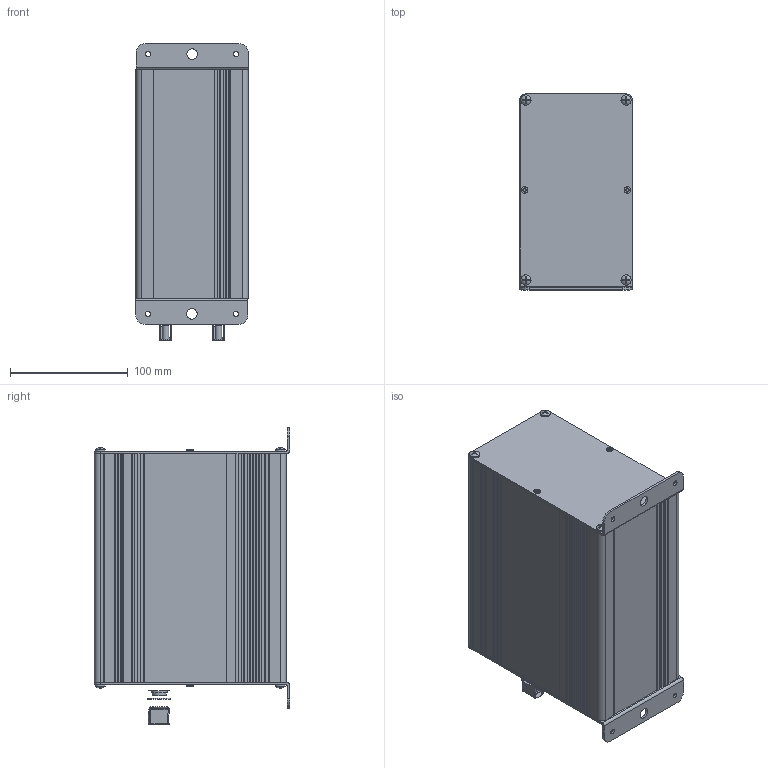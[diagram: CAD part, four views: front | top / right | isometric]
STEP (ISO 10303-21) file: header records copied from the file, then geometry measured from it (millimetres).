
FILE_DESCRIPTION(/* description */ ('','CAx-IF Rec.Pracs.---Representation and Presentation of Product Manufacturing Information (PMI)---4.0---2014-10-13'),/* implementation_level */ '2;1');
FILE_NAME(/* name */ 'H:\04_배터리_전기종\저부하용 배터리 케이스_3D\LB-25V35AH\LB-25V35AH.stp',/* time_stamp */ '2022-12-06T12:11:48+09:00',/* author */ ('jjang'),/* organization */ (''),/* preprocessor_version */ 'ST-DEVELOPER v18.1',/* originating_system */ 'Autodesk Inventor 2021',/* authorisation */ '');
FILE_SCHEMA (('AP242_MANAGED_MODEL_BASED_3D_ENGINEERING_MIM_LF { 1 0 10303 442 1 1 4 }'));
Length unit declared in the file: inch
Products named in the file (1): LB-25V35AH_Shrinkwrap_1
Bounding box: 95.73 x 166.4 x 252.7 mm (x, y, z)
Volume: 355015.3 mm3; surface area: 299246.3 mm2
Topology: 1 solids, 1 shells, 754 faces, 2206 edges, 1442 vertices
Faces by surface type: plane 440, cylinder 250, bspline 24, cone 18, torus 14, sphere 8
Full cylindrical faces by diameter (mm): 3.2 x4, 3.4 x4, 3.8 x8, 4.4 x4, 4.5 x8, 5.4 x2, 5.7 x4, 8.8 x8, 9 x2, 12 x2, 13.861 x2
Entity records: 27272 total; most frequent: CARTESIAN_POINT 6476, ORIENTED_EDGE 4412, DIRECTION 4248, EDGE_CURVE 2206, AXIS2_PLACEMENT_3D 1514, VERTEX_POINT 1442, LINE 1220, VECTOR 1220
